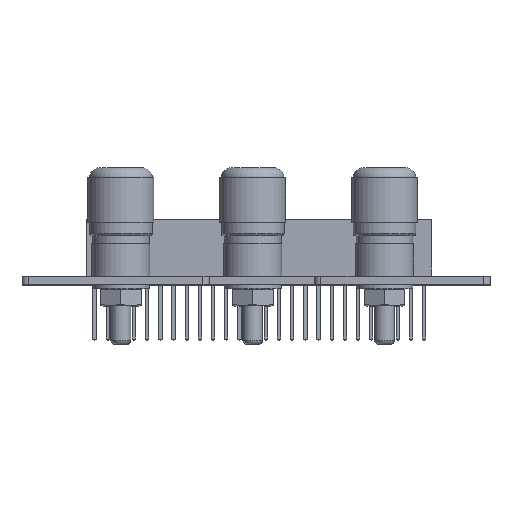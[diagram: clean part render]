
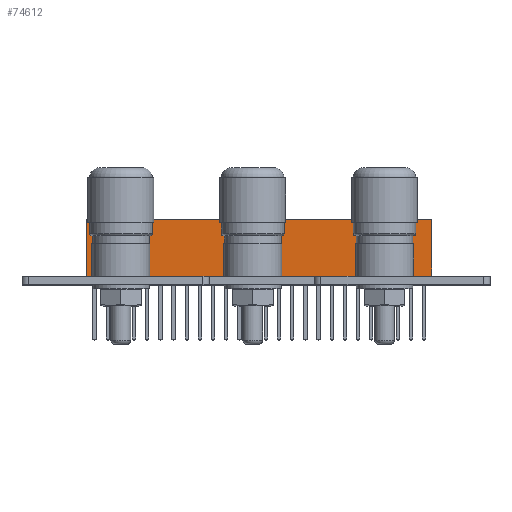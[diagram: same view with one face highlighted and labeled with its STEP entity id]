
A CAD part, top view. The second image highlights one B-rep face of the part: STEP entity #74612.
In plain terms, the highlighted planar face has unit normal (0, 0, 1).
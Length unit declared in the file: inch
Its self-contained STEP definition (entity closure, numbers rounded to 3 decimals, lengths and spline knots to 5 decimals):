
#6790 = DIRECTION ( 'NONE',  ( 0., -1., 0. ) ) ;
#7319 = ORIENTED_EDGE ( 'NONE', *, *, #46004, .F. ) ;
#9837 = CARTESIAN_POINT ( 'NONE',  ( -1.285, 0.031, -1.33875 ) ) ;
#11750 = DIRECTION ( 'NONE',  ( 0., -1., 0. ) ) ;
#12825 = LINE ( 'NONE', #21440, #88868 ) ;
#20208 = ORIENTED_EDGE ( 'NONE', *, *, #60345, .T. ) ;
#21440 = CARTESIAN_POINT ( 'NONE',  ( 1.335, 0.466, -1.33875 ) ) ;
#22822 = CARTESIAN_POINT ( 'NONE',  ( -1.285, 0.466, -1.33875 ) ) ;
#23360 = LINE ( 'NONE', #55612, #79734 ) ;
#27398 = CARTESIAN_POINT ( 'NONE',  ( 1.335, 0.031, -1.33875 ) ) ;
#28147 = VERTEX_POINT ( 'NONE', #47515 ) ;
#31711 = DIRECTION ( 'NONE',  ( 1., 0., 0. ) ) ;
#32277 = CARTESIAN_POINT ( 'NONE',  ( -1.285, 0.466, -1.33875 ) ) ;
#32854 = VECTOR ( 'NONE', #31711, 39.37008 ) ;
#35132 = LINE ( 'NONE', #68344, #32854 ) ;
#35487 = ORIENTED_EDGE ( 'NONE', *, *, #49541, .F. ) ;
#38062 = AXIS2_PLACEMENT_3D ( 'NONE', #32277, #83681, #39614 ) ;
#39316 = CARTESIAN_POINT ( 'NONE',  ( -1.285, 0.031, -1.33875 ) ) ;
#39614 = DIRECTION ( 'NONE',  ( -1., 0., 0. ) ) ;
#46004 = EDGE_CURVE ( 'NONE', #49108, #28147, #35132, .T. ) ;
#46639 = DIRECTION ( 'NONE',  ( 1., 0., 0. ) ) ;
#47515 = CARTESIAN_POINT ( 'NONE',  ( 1.335, 0.466, -1.33875 ) ) ;
#49108 = VERTEX_POINT ( 'NONE', #22822 ) ;
#49356 = EDGE_CURVE ( 'NONE', #49108, #83086, #23360, .T. ) ;
#49541 = EDGE_CURVE ( 'NONE', #28147, #74817, #12825, .T. ) ;
#55612 = CARTESIAN_POINT ( 'NONE',  ( -1.285, 0.466, -1.33875 ) ) ;
#55801 = EDGE_LOOP ( 'NONE', ( #20208, #35487, #7319, #80854 ) ) ;
#60345 = EDGE_CURVE ( 'NONE', #83086, #74817, #71998, .T. ) ;
#66490 = FACE_OUTER_BOUND ( 'NONE', #55801, .T. ) ;
#68344 = CARTESIAN_POINT ( 'NONE',  ( -1.285, 0.466, -1.33875 ) ) ;
#71998 = LINE ( 'NONE', #9837, #86900 ) ;
#74612 = ADVANCED_FACE ( 'NONE', ( #66490 ), #83380, .F. ) ;
#74817 = VERTEX_POINT ( 'NONE', #27398 ) ;
#79734 = VECTOR ( 'NONE', #11750, 39.37008 ) ;
#80854 = ORIENTED_EDGE ( 'NONE', *, *, #49356, .T. ) ;
#83086 = VERTEX_POINT ( 'NONE', #39316 ) ;
#83380 = PLANE ( 'NONE',  #38062 ) ;
#83681 = DIRECTION ( 'NONE',  ( 0., 0., -1. ) ) ;
#86900 = VECTOR ( 'NONE', #46639, 39.37008 ) ;
#88868 = VECTOR ( 'NONE', #6790, 39.37008 ) ;
